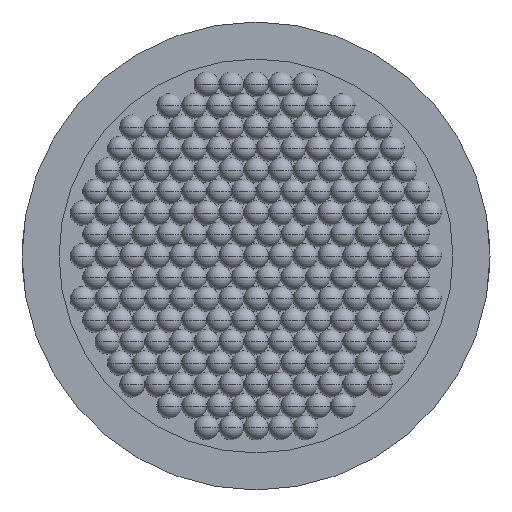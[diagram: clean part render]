
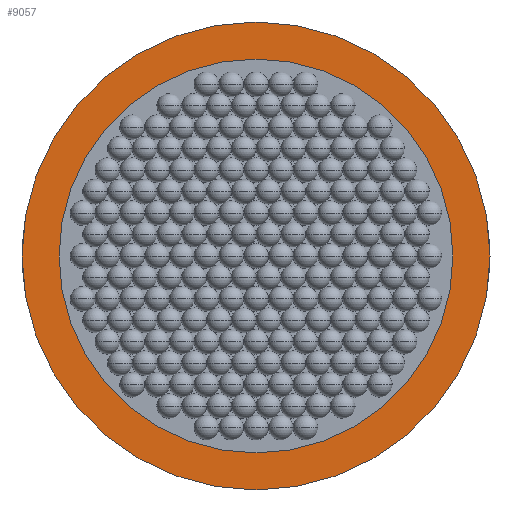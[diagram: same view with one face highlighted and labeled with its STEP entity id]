
A CAD part, front view. The second image highlights one B-rep face of the part: STEP entity #9057.
In plain terms, the highlighted planar face has unit normal (0, -1, 0).
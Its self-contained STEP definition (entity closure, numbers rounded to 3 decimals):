
#1105 = CARTESIAN_POINT ( 'NONE',  ( 60., 1., 0. ) ) ;
#1902 = DIRECTION ( 'NONE',  ( 0., -1., 0. ) ) ;
#2064 = DIRECTION ( 'NONE',  ( -1., 0., 0. ) ) ;
#2434 = DIRECTION ( 'NONE',  ( 0., -1., 0. ) ) ;
#2944 = EDGE_LOOP ( 'NONE', ( #4255, #13114 ) ) ;
#3264 = VERTEX_POINT ( 'NONE', #1105 ) ;
#3792 = CIRCLE ( 'NONE', #7467, 60. ) ;
#4105 = CARTESIAN_POINT ( 'NONE',  ( 50.5, 1., 0. ) ) ;
#4255 = ORIENTED_EDGE ( 'NONE', *, *, #5452, .T. ) ;
#5452 = EDGE_CURVE ( 'NONE', #3264, #8522, #5904, .T. ) ;
#5770 = FACE_BOUND ( 'NONE', #11097, .T. ) ;
#5904 = CIRCLE ( 'NONE', #16460, 60. ) ;
#6114 = CARTESIAN_POINT ( 'NONE',  ( 0., 1., 0. ) ) ;
#6259 = CARTESIAN_POINT ( 'NONE',  ( -50.5, 1., 0. ) ) ;
#7102 = CARTESIAN_POINT ( 'NONE',  ( -50.5, 1., 0. ) ) ;
#7467 = AXIS2_PLACEMENT_3D ( 'NONE', #12133, #1902, #13815 ) ;
#7859 = DIRECTION ( 'NONE',  ( 1., 0., 0. ) ) ;
#7888 = CARTESIAN_POINT ( 'NONE',  ( 0., 1., 0. ) ) ;
#8065 = AXIS2_PLACEMENT_3D ( 'NONE', #7102, #12290, #2064 ) ;
#8522 = VERTEX_POINT ( 'NONE', #18875 ) ;
#8893 = PLANE ( 'NONE',  #8065 ) ;
#9057 = ADVANCED_FACE ( 'NONE', ( #5770, #10311 ), #8893, .F. ) ;
#9596 = DIRECTION ( 'NONE',  ( 1., 0., 0. ) ) ;
#10257 = AXIS2_PLACEMENT_3D ( 'NONE', #12632, #2434, #14340 ) ;
#10311 = FACE_OUTER_BOUND ( 'NONE', #2944, .T. ) ;
#10384 = CIRCLE ( 'NONE', #10257, 50.5 ) ;
#11097 = EDGE_LOOP ( 'NONE', ( #21156, #14461 ) ) ;
#12133 = CARTESIAN_POINT ( 'NONE',  ( 0., 1., 0. ) ) ;
#12290 = DIRECTION ( 'NONE',  ( 0., 1., 0. ) ) ;
#12632 = CARTESIAN_POINT ( 'NONE',  ( 0., 1., 0. ) ) ;
#12886 = VERTEX_POINT ( 'NONE', #4105 ) ;
#13114 = ORIENTED_EDGE ( 'NONE', *, *, #21969, .T. ) ;
#13815 = DIRECTION ( 'NONE',  ( 1., 0., 0. ) ) ;
#14055 = EDGE_CURVE ( 'NONE', #12886, #20539, #19567, .T. ) ;
#14340 = DIRECTION ( 'NONE',  ( 1., 0., 0. ) ) ;
#14461 = ORIENTED_EDGE ( 'NONE', *, *, #17086, .F. ) ;
#16460 = AXIS2_PLACEMENT_3D ( 'NONE', #6114, #18023, #7859 ) ;
#17086 = EDGE_CURVE ( 'NONE', #20539, #12886, #10384, .T. ) ;
#18023 = DIRECTION ( 'NONE',  ( 0., -1., 0. ) ) ;
#18875 = CARTESIAN_POINT ( 'NONE',  ( -60., 1., 0. ) ) ;
#19567 = CIRCLE ( 'NONE', #21596, 50.5 ) ;
#19789 = DIRECTION ( 'NONE',  ( 0., -1., 0. ) ) ;
#20539 = VERTEX_POINT ( 'NONE', #6259 ) ;
#21156 = ORIENTED_EDGE ( 'NONE', *, *, #14055, .F. ) ;
#21596 = AXIS2_PLACEMENT_3D ( 'NONE', #7888, #19789, #9596 ) ;
#21969 = EDGE_CURVE ( 'NONE', #8522, #3264, #3792, .T. ) ;
